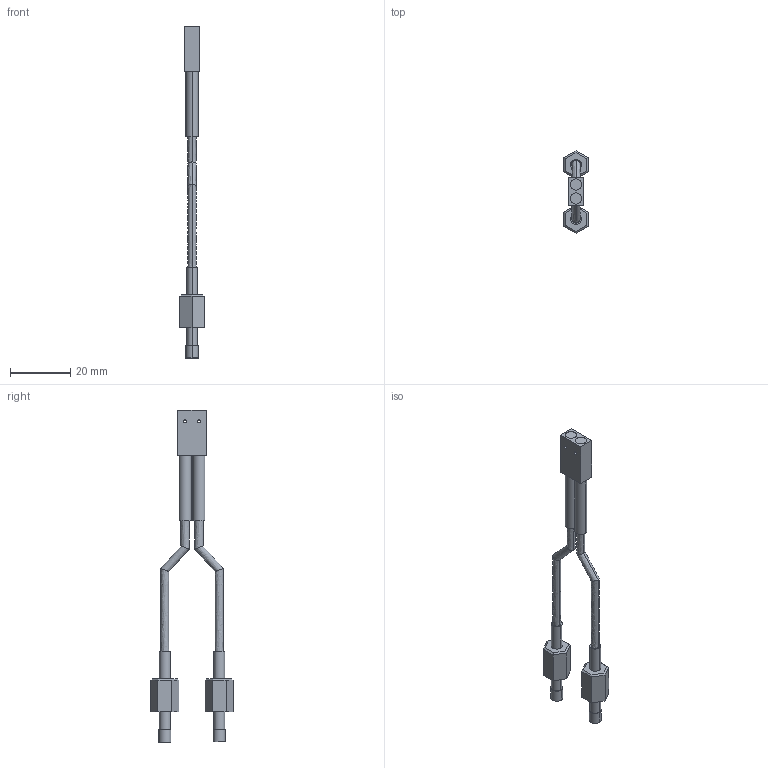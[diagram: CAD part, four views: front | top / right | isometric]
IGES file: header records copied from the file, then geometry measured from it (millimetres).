
Start section: SolidWorks IGES FILE using analytic representation for surfaces
Global section: file name: C:\Documents and Settings\yk0651\デスクトップ\3D_catalog_050904\0_IGES\FD-H30-KZ1V.IGS; native system: SolidWorks 2004 by SolidWorks Corporation; preprocessor: Version 5.3; author: yk0651; date: 050904.184245; units: millimetre
Bounding box: 8 x 27.24 x 110 mm (x, y, z)
Volume: 3249.7 mm3; surface area: 3736 mm2
Topology: 5 solids, 5 shells, 88 faces, 184 edges, 116 vertices
Faces by surface type: plane 48, revolution 40
